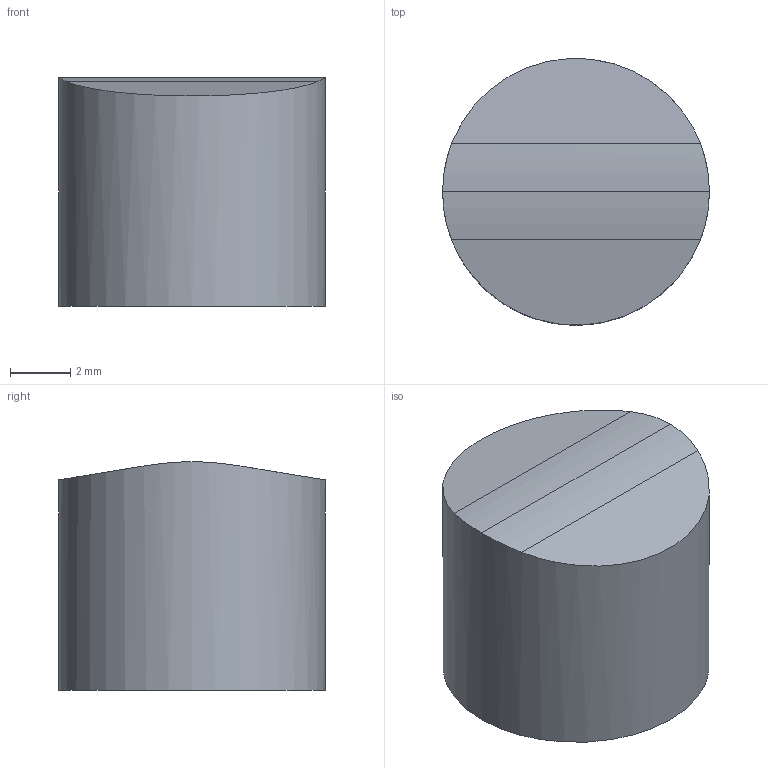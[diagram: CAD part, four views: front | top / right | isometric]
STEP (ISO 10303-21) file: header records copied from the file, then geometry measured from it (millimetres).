
FILE_DESCRIPTION(/* description */ ('Alibre Inc.'),/* implementation_level */ '2;1');
FILE_NAME(/* name */ 'export0',/* time_stamp */ '2011-07-18T12:52:34-04:00',/* author */ (''),/* organization */ (''),/* preprocessor_version */ 'ST-DEVELOPER v12',/* originating_system */ 'Alibre',/* authorisation */ '');
FILE_SCHEMA (('AUTOMOTIVE_DESIGN'));
Length unit declared in the file: centimetre
Bounding box: 8.89 x 8.89 x 7.62 mm (x, y, z)
Volume: 460 mm3; surface area: 327.7 mm2
Topology: 1 solids, 1 shells, 6 faces, 11 edges, 7 vertices
Faces by surface type: plane 3, bspline 2, cylinder 1
Full cylindrical faces by diameter (mm): 8.89 x1
Entity records: 213 total; most frequent: CARTESIAN_POINT 93, ORIENTED_EDGE 20, DIRECTION 14, EDGE_CURVE 10, VERTEX_POINT 7, EDGE_LOOP 7, FACE_BOUND 7, AXIS2_PLACEMENT_3D 7
